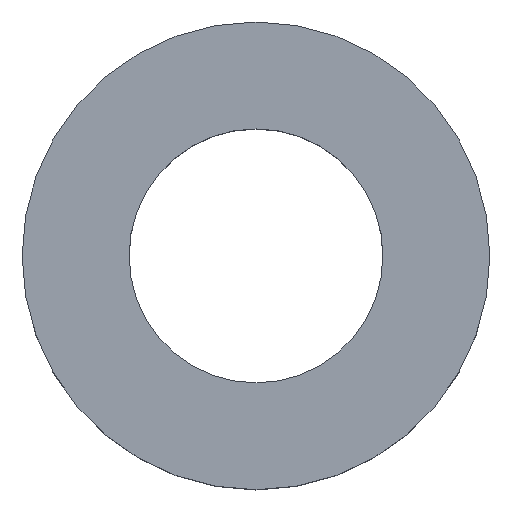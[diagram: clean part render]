
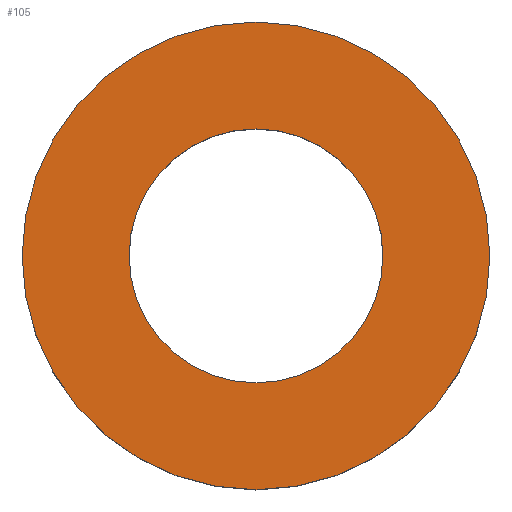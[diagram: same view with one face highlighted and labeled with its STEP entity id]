
A CAD part, top view. The second image highlights one B-rep face of the part: STEP entity #105.
In plain terms, the highlighted planar face has unit normal (0, 0, 1).
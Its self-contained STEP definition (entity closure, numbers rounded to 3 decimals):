
#21 = EDGE_CURVE('',#22,#22,#24,.T.);
#22 = VERTEX_POINT('',#23);
#23 = CARTESIAN_POINT('',(-170.,-265.913,23.5));
#24 = SURFACE_CURVE('',#25,(#30,#42),.PCURVE_S1.);
#25 = CIRCLE('',#26,35.);
#26 = AXIS2_PLACEMENT_3D('',#27,#28,#29);
#27 = CARTESIAN_POINT('',(-205.,-265.913,23.5));
#28 = DIRECTION('',(0.,0.,1.));
#29 = DIRECTION('',(1.,0.,-0.));
#30 = PCURVE('',#31,#36);
#31 = CYLINDRICAL_SURFACE('',#32,35.);
#32 = AXIS2_PLACEMENT_3D('',#33,#34,#35);
#33 = CARTESIAN_POINT('',(-205.,-265.913,2.5));
#34 = DIRECTION('',(0.,0.,1.));
#35 = DIRECTION('',(1.,0.,-0.));
#36 = DEFINITIONAL_REPRESENTATION('',(#37),#41);
#37 = LINE('',#38,#39);
#38 = CARTESIAN_POINT('',(0.,21.));
#39 = VECTOR('',#40,1.);
#40 = DIRECTION('',(1.,0.));
#41 = ( GEOMETRIC_REPRESENTATION_CONTEXT(2) 
PARAMETRIC_REPRESENTATION_CONTEXT() REPRESENTATION_CONTEXT('2D SPACE',''
  ) );
#42 = PCURVE('',#43,#48);
#43 = PLANE('',#44);
#44 = AXIS2_PLACEMENT_3D('',#45,#46,#47);
#45 = CARTESIAN_POINT('',(-205.,-265.913,23.5));
#46 = DIRECTION('',(0.,0.,1.));
#47 = DIRECTION('',(1.,0.,-0.));
#48 = DEFINITIONAL_REPRESENTATION('',(#49),#53);
#49 = CIRCLE('',#50,35.);
#50 = AXIS2_PLACEMENT_2D('',#51,#52);
#51 = CARTESIAN_POINT('',(0.,0.));
#52 = DIRECTION('',(1.,0.));
#53 = ( GEOMETRIC_REPRESENTATION_CONTEXT(2) 
PARAMETRIC_REPRESENTATION_CONTEXT() REPRESENTATION_CONTEXT('2D SPACE',''
  ) );
#105 = ADVANCED_FACE('',(#106,#109),#43,.T.);
#106 = FACE_BOUND('',#107,.T.);
#107 = EDGE_LOOP('',(#108));
#108 = ORIENTED_EDGE('',*,*,#21,.T.);
#109 = FACE_BOUND('',#110,.T.);
#110 = EDGE_LOOP('',(#111));
#111 = ORIENTED_EDGE('',*,*,#112,.F.);
#112 = EDGE_CURVE('',#113,#113,#115,.T.);
#113 = VERTEX_POINT('',#114);
#114 = CARTESIAN_POINT('',(-186.,-265.913,23.5));
#115 = SURFACE_CURVE('',#116,(#121,#128),.PCURVE_S1.);
#116 = CIRCLE('',#117,19.);
#117 = AXIS2_PLACEMENT_3D('',#118,#119,#120);
#118 = CARTESIAN_POINT('',(-205.,-265.913,23.5));
#119 = DIRECTION('',(0.,0.,1.));
#120 = DIRECTION('',(1.,0.,-0.));
#121 = PCURVE('',#43,#122);
#122 = DEFINITIONAL_REPRESENTATION('',(#123),#127);
#123 = CIRCLE('',#124,19.);
#124 = AXIS2_PLACEMENT_2D('',#125,#126);
#125 = CARTESIAN_POINT('',(0.,0.));
#126 = DIRECTION('',(1.,0.));
#127 = ( GEOMETRIC_REPRESENTATION_CONTEXT(2) 
PARAMETRIC_REPRESENTATION_CONTEXT() REPRESENTATION_CONTEXT('2D SPACE',''
  ) );
#128 = PCURVE('',#129,#134);
#129 = CYLINDRICAL_SURFACE('',#130,19.);
#130 = AXIS2_PLACEMENT_3D('',#131,#132,#133);
#131 = CARTESIAN_POINT('',(-205.,-265.913,2.5));
#132 = DIRECTION('',(0.,0.,1.));
#133 = DIRECTION('',(1.,0.,-0.));
#134 = DEFINITIONAL_REPRESENTATION('',(#135),#139);
#135 = LINE('',#136,#137);
#136 = CARTESIAN_POINT('',(0.,21.));
#137 = VECTOR('',#138,1.);
#138 = DIRECTION('',(1.,0.));
#139 = ( GEOMETRIC_REPRESENTATION_CONTEXT(2) 
PARAMETRIC_REPRESENTATION_CONTEXT() REPRESENTATION_CONTEXT('2D SPACE',''
  ) );
